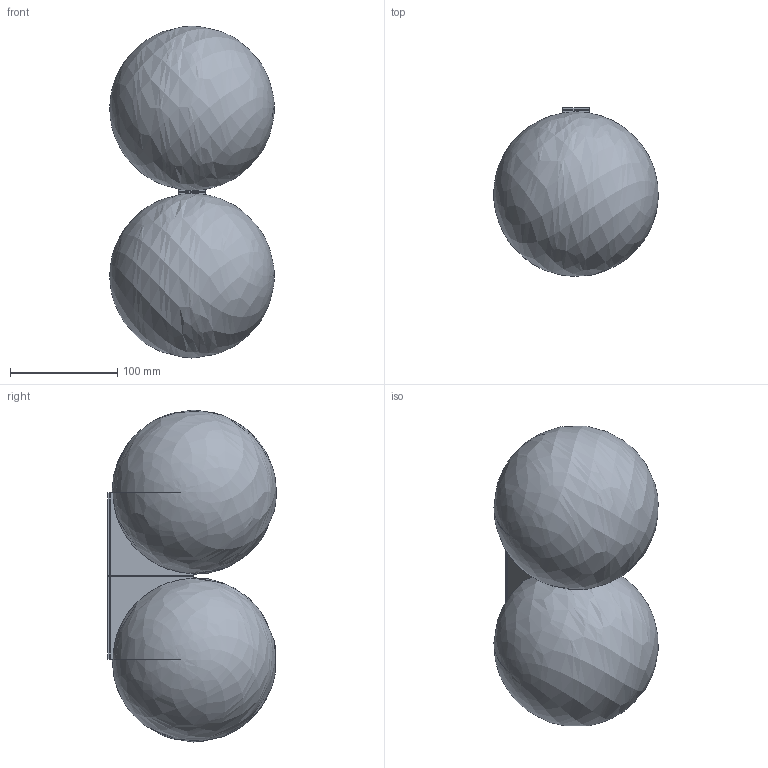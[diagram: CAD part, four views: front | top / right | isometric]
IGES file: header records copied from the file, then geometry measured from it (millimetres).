
Start section: Use this template file for building objects the size of a truck or smaller, and for objects which must be built to manufacturing tolerances. Units: Millimeters Absolute tolerance: .001 mm
Global section: file name: /Volumes/Company/WIP/Marlen/WFH/Website/SALES 3D/BAC/WALL/DS150/3D web /MA_BAC DS150_240V_2017.igs; preprocessor: Trout Lake IGES 012 Dec  4 2019; date: 201202.113859; units: millimetre
Bounding box: 153.47 x 157.39 x 309.89 mm (x, y, z)
Surface area: 159202.7 mm2 (no closed solid volume)
Topology: 0 solids, 0 shells, 26 faces, 208 edges, 204 vertices
Faces by surface type: bspline 26
